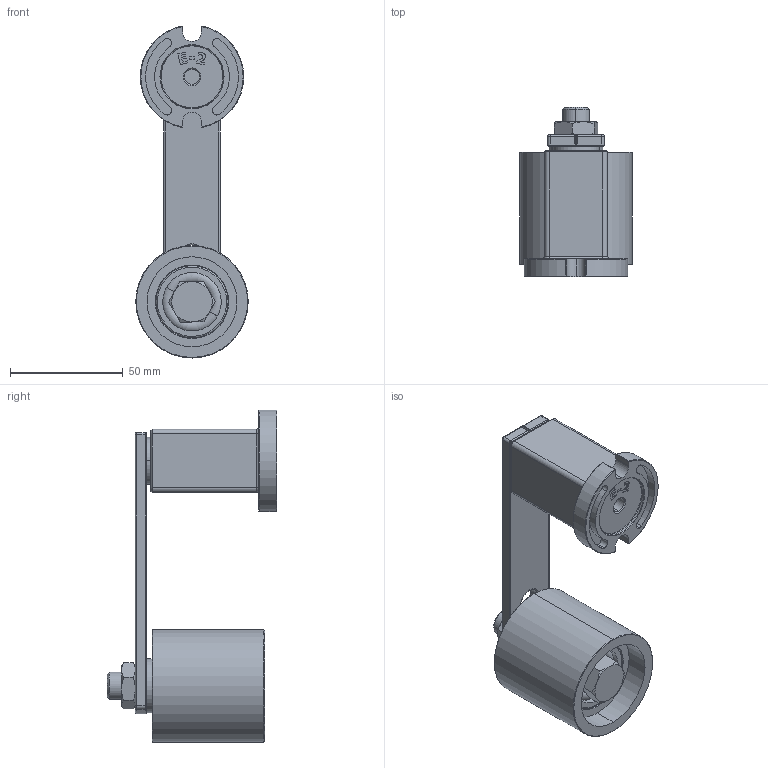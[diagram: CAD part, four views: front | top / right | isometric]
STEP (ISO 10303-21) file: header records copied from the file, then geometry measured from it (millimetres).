
FILE_DESCRIPTION (( 'STEP AP203' ), '1' );
FILE_NAME ('ERU 2 5050AVP cod.94075022.STEP', '2017-08-28T08:24:26', ( '' ), ( '' ), 'SwSTEP 2.0', 'SolidWorks 2016', '' );
FILE_SCHEMA (( 'CONFIG_CONTROL_DESIGN' ));
Length unit declared in the file: millimetre
Products named in the file (11): Leva E2_foro 12.5; DIN 625 - 6201 - 8,SI,NC,8_68_DIN 625 - 6201 - 8,SI,NC,8_68; ISO 4015 - M12 x 60 x 30-C_ISO 4015 - M12 x 60 x 30-C; AVP-2975050VS; E2 cod. 94070002; DIST-5050; E2_009_step; RU 5050 AVP cod. 94040250_montaggio 2; Hexagon Thin Nut ISO 4035 - M12 - N_Hexagon Thin Nut ISO 4035 - M12 - N; ERU 2 5050AVP cod.94075022; Washer ISO 7089 - 12_Washer ISO 7089 - 12
Assembly tree (11 placements, depth 3):
  ERU 2 5050AVP cod.94075022
    E2 cod. 94070002
      Leva E2_foro 12.5
      E2_009_step
    RU 5050 AVP cod. 94040250_montaggio 2
      AVP-2975050VS
      DIST-5050
      DIN 625 - 6201 - 8,SI,NC,8_68_DIN 625 - 6201 - 8,SI,NC,8_68  x2
      ISO 4015 - M12 x 60 x 30-C_ISO 4015 - M12 x 60 x 30-C
      Hexagon Thin Nut ISO 4035 - M12 - N_Hexagon Thin Nut ISO 4035 - M12 - N
      Washer ISO 7089 - 12_Washer ISO 7089 - 12
Bounding box: 50 x 75.5 x 147.56 mm (x, y, z)
Volume: 131453.2 mm3; surface area: 55840.3 mm2
Topology: 9 solids, 9 shells, 328 faces, 734 edges, 442 vertices
Faces by surface type: cylinder 107, plane 100, cone 56, torus 52, bspline 13
Entity records: 10169 total; most frequent: CARTESIAN_POINT 2193, DIRECTION 1510, ORIENTED_EDGE 1356, EDGE_CURVE 678, AXIS2_PLACEMENT_3D 607, VERTEX_POINT 410, EDGE_LOOP 332, CIRCLE 304
